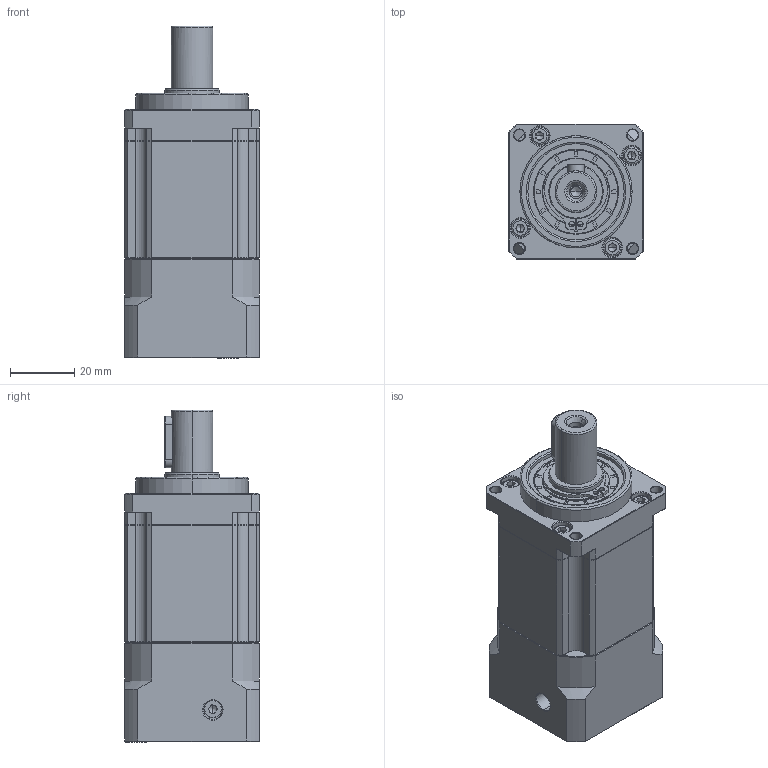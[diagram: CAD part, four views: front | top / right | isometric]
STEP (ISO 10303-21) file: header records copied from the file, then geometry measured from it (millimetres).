
FILE_DESCRIPTION (( 'STEP AP214' ), '1' );
FILE_NAME ('ZB042-D13-L2-P2-8-30-46-M4.STEP', '2023-08-15T12:00:04', ( '' ), ( '' ), 'SwSTEP 2.0', 'SolidWorks 2016', '' );
FILE_SCHEMA (( 'AUTOMOTIVE_DESIGN' ));
Length unit declared in the file: millimetre
Products named in the file (1): ZB042-D13-L2-P2-8-30-46-M4
Bounding box: 42 x 42 x 103.5 mm (x, y, z)
Volume: 123347.2 mm3; surface area: 29424 mm2
Topology: 6 solids, 6 shells, 2247 faces, 6024 edges, 3872 vertices
Faces by surface type: plane 1098, cylinder 417, bspline 409, cone 303, torus 20
Entity records: 121441 total; most frequent: CARTESIAN_POINT 44039, ORIENTED_EDGE 11988, DIRECTION 9268, EDGE_CURVE 5994, VERTEX_POINT 3872, VECTOR 3814, LINE 3814, AXIS2_PLACEMENT_3D 2727
